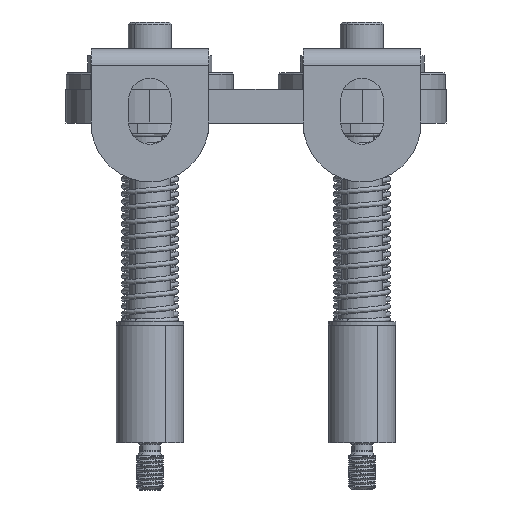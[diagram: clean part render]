
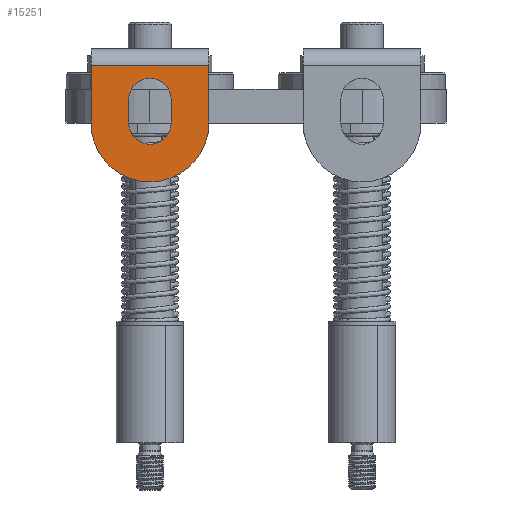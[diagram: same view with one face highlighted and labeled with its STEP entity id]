
A CAD part, left-side view. The second image highlights one B-rep face of the part: STEP entity #15251.
In plain terms, the highlighted planar face has unit normal (-1, 0, 0).
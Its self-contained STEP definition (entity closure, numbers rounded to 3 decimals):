
#112 = EDGE_CURVE ( 'NONE', #49695, #36499, #29878, .T. ) ;
#525 = VECTOR ( 'NONE', #31836, 1000. ) ;
#1210 = DIRECTION ( 'NONE',  ( -1., 0., 0. ) ) ;
#2073 = EDGE_LOOP ( 'NONE', ( #39455, #9912, #27849, #3633, #25938 ) ) ;
#2804 = FACE_BOUND ( 'NONE', #48475, .T. ) ;
#3633 = ORIENTED_EDGE ( 'NONE', *, *, #44202, .T. ) ;
#3891 = LINE ( 'NONE', #4648, #10487 ) ;
#3942 = CIRCLE ( 'NONE', #48169, 6.3 ) ;
#4648 = CARTESIAN_POINT ( 'NONE',  ( -116.5, 14., 20. ) ) ;
#5179 = DIRECTION ( 'NONE',  ( -1., 0., 0. ) ) ;
#5397 = AXIS2_PLACEMENT_3D ( 'NONE', #14297, #45951, #29991 ) ;
#5729 = CARTESIAN_POINT ( 'NONE',  ( -116.5, 14., 17. ) ) ;
#6501 = CARTESIAN_POINT ( 'NONE',  ( -116.5, 14., 0. ) ) ;
#7539 = EDGE_CURVE ( 'NONE', #32555, #8642, #14977, .T. ) ;
#8642 = VERTEX_POINT ( 'NONE', #26297 ) ;
#9044 = DIRECTION ( 'NONE',  ( 0., 0., 1. ) ) ;
#9660 = LINE ( 'NONE', #25609, #36485 ) ;
#9887 = ORIENTED_EDGE ( 'NONE', *, *, #26307, .F. ) ;
#9912 = ORIENTED_EDGE ( 'NONE', *, *, #40590, .T. ) ;
#10487 = VECTOR ( 'NONE', #36031, 1000. ) ;
#10871 = ORIENTED_EDGE ( 'NONE', *, *, #20833, .F. ) ;
#12232 = CARTESIAN_POINT ( 'NONE',  ( -116.5, 49., 0. ) ) ;
#12771 = VERTEX_POINT ( 'NONE', #19243 ) ;
#13261 = CARTESIAN_POINT ( 'NONE',  ( -116.5, 49., 17. ) ) ;
#13534 = VERTEX_POINT ( 'NONE', #43688 ) ;
#14297 = CARTESIAN_POINT ( 'NONE',  ( -116.5, 31.5, 0. ) ) ;
#14677 = EDGE_CURVE ( 'NONE', #36499, #37988, #3891, .T. ) ;
#14977 = CIRCLE ( 'NONE', #43392, 6.3 ) ;
#15251 = ADVANCED_FACE ( 'NONE', ( #2804, #35198 ), #51141, .T. ) ;
#16354 = DIRECTION ( 'NONE',  ( 0., 0., 1. ) ) ;
#19243 = CARTESIAN_POINT ( 'NONE',  ( -116.5, 49., 0. ) ) ;
#19675 = VERTEX_POINT ( 'NONE', #39689 ) ;
#20417 = DIRECTION ( 'NONE',  ( -1., 0., 0. ) ) ;
#20833 = EDGE_CURVE ( 'NONE', #37623, #32555, #43822, .T. ) ;
#21107 = DIRECTION ( 'NONE',  ( -1., 0., 0. ) ) ;
#21685 = DIRECTION ( 'NONE',  ( 0., 1., 0. ) ) ;
#21842 = VECTOR ( 'NONE', #47645, 1000. ) ;
#22339 = CIRCLE ( 'NONE', #29879, 6.3 ) ;
#22348 = DIRECTION ( 'NONE',  ( -1., 0., 0. ) ) ;
#22726 = ORIENTED_EDGE ( 'NONE', *, *, #7539, .F. ) ;
#24049 = CIRCLE ( 'NONE', #37421, 17.5 ) ;
#24369 = CARTESIAN_POINT ( 'NONE',  ( -116.5, 31.5, -17.5 ) ) ;
#25609 = CARTESIAN_POINT ( 'NONE',  ( -116.5, 31.5, 17. ) ) ;
#25938 = ORIENTED_EDGE ( 'NONE', *, *, #112, .T. ) ;
#26297 = CARTESIAN_POINT ( 'NONE',  ( -116.5, 31.5, 13.3 ) ) ;
#26307 = EDGE_CURVE ( 'NONE', #19675, #13534, #31693, .T. ) ;
#27477 = ORIENTED_EDGE ( 'NONE', *, *, #43450, .F. ) ;
#27512 = CARTESIAN_POINT ( 'NONE',  ( -116.5, 37.8, 7. ) ) ;
#27849 = ORIENTED_EDGE ( 'NONE', *, *, #38605, .T. ) ;
#28194 = DIRECTION ( 'NONE',  ( 0., 0., 1. ) ) ;
#29276 = CARTESIAN_POINT ( 'NONE',  ( -116.5, 31.5, 0. ) ) ;
#29878 = CIRCLE ( 'NONE', #34028, 17.5 ) ;
#29879 = AXIS2_PLACEMENT_3D ( 'NONE', #29276, #20417, #45518 ) ;
#29991 = DIRECTION ( 'NONE',  ( 0., 0., 1. ) ) ;
#31535 = CARTESIAN_POINT ( 'NONE',  ( -116.5, 25.2, 7. ) ) ;
#31693 = LINE ( 'NONE', #27512, #21842 ) ;
#31836 = DIRECTION ( 'NONE',  ( 0., 0., -1. ) ) ;
#32102 = LINE ( 'NONE', #12232, #525 ) ;
#32555 = VERTEX_POINT ( 'NONE', #50722 ) ;
#34028 = AXIS2_PLACEMENT_3D ( 'NONE', #48783, #1210, #9044 ) ;
#35198 = FACE_OUTER_BOUND ( 'NONE', #2073, .T. ) ;
#36031 = DIRECTION ( 'NONE',  ( 0., 0., 1. ) ) ;
#36485 = VECTOR ( 'NONE', #21685, 1000. ) ;
#36499 = VERTEX_POINT ( 'NONE', #6501 ) ;
#37421 = AXIS2_PLACEMENT_3D ( 'NONE', #48085, #21107, #28194 ) ;
#37623 = VERTEX_POINT ( 'NONE', #38740 ) ;
#37988 = VERTEX_POINT ( 'NONE', #5729 ) ;
#38302 = DIRECTION ( 'NONE',  ( 0., 0., 1. ) ) ;
#38605 = EDGE_CURVE ( 'NONE', #42610, #12771, #32102, .T. ) ;
#38740 = CARTESIAN_POINT ( 'NONE',  ( -116.5, 25.2, 0. ) ) ;
#39455 = ORIENTED_EDGE ( 'NONE', *, *, #14677, .T. ) ;
#39689 = CARTESIAN_POINT ( 'NONE',  ( -116.5, 37.8, 7. ) ) ;
#40590 = EDGE_CURVE ( 'NONE', #37988, #42610, #9660, .T. ) ;
#41002 = CARTESIAN_POINT ( 'NONE',  ( -116.5, 31.5, 7. ) ) ;
#42322 = DIRECTION ( 'NONE',  ( 0., 0., 1. ) ) ;
#42610 = VERTEX_POINT ( 'NONE', #13261 ) ;
#43392 = AXIS2_PLACEMENT_3D ( 'NONE', #41002, #5179, #42322 ) ;
#43450 = EDGE_CURVE ( 'NONE', #13534, #37623, #22339, .T. ) ;
#43688 = CARTESIAN_POINT ( 'NONE',  ( -116.5, 37.8, 0. ) ) ;
#43822 = LINE ( 'NONE', #31535, #47097 ) ;
#44202 = EDGE_CURVE ( 'NONE', #12771, #49695, #24049, .T. ) ;
#45518 = DIRECTION ( 'NONE',  ( 0., 0., 1. ) ) ;
#45951 = DIRECTION ( 'NONE',  ( -1., 0., 0. ) ) ;
#47097 = VECTOR ( 'NONE', #16354, 1000. ) ;
#47645 = DIRECTION ( 'NONE',  ( 0., 0., -1. ) ) ;
#48085 = CARTESIAN_POINT ( 'NONE',  ( -116.5, 31.5, 0. ) ) ;
#48169 = AXIS2_PLACEMENT_3D ( 'NONE', #50059, #22348, #38302 ) ;
#48475 = EDGE_LOOP ( 'NONE', ( #22726, #10871, #27477, #9887, #50697 ) ) ;
#48783 = CARTESIAN_POINT ( 'NONE',  ( -116.5, 31.5, 0. ) ) ;
#49695 = VERTEX_POINT ( 'NONE', #24369 ) ;
#50059 = CARTESIAN_POINT ( 'NONE',  ( -116.5, 31.5, 7. ) ) ;
#50697 = ORIENTED_EDGE ( 'NONE', *, *, #51568, .F. ) ;
#50722 = CARTESIAN_POINT ( 'NONE',  ( -116.5, 25.2, 7. ) ) ;
#51141 = PLANE ( 'NONE',  #5397 ) ;
#51568 = EDGE_CURVE ( 'NONE', #8642, #19675, #3942, .T. ) ;
